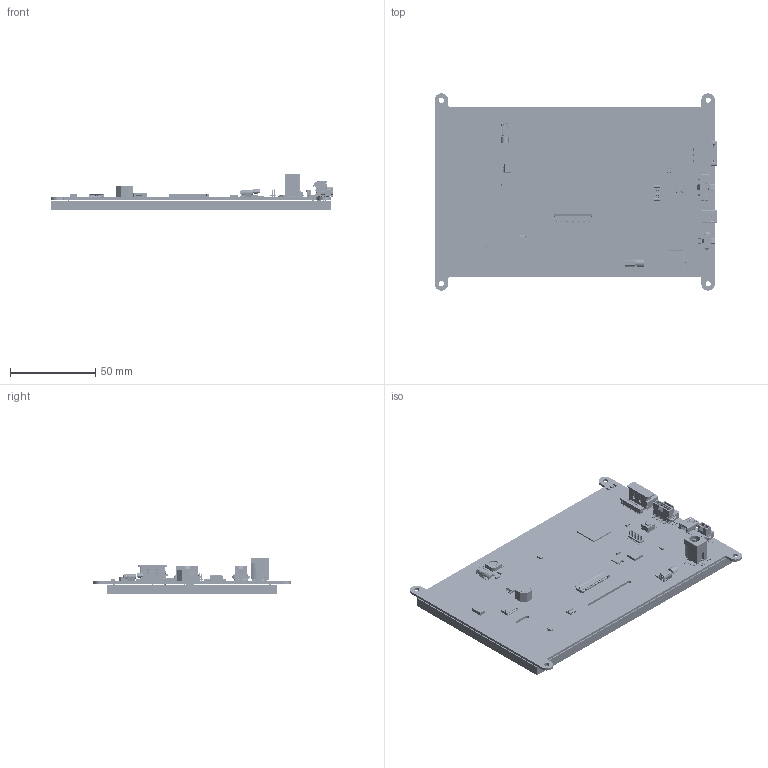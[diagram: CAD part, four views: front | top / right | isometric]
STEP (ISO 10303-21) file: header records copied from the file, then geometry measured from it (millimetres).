
FILE_DESCRIPTION (( 'STEP AP214' ), '1' );
FILE_NAME ('HTT70A-TPN R3.0.2.STEP', '2021-04-06T19:25:35', ( '' ), ( '' ), 'SwSTEP 2.0', 'SolidWorks 2018', '' );
FILE_SCHEMA (( 'AUTOMOTIVE_DESIGN' ));
Length unit declared in the file: millimetre
Products named in the file (4): HTT70_Vert_R3.0.2; HTT70A-TPN R3.0.2; MOP-TFT800480-70A-TPN; HTT70A Vert Parts R3.0.2
Assembly tree (3 placements, depth 2):
  HTT70A-TPN R3.0.2
    HTT70_Vert_R3.0.2
    HTT70A Vert Parts R3.0.2
    MOP-TFT800480-70A-TPN
Bounding box: 166.38 x 116 x 21.76 mm (x, y, z)
Volume: 117971.5 mm3; surface area: 84644.1 mm2
Topology: 2 solids, 192 shells, 13870 faces, 38586 edges, 24969 vertices
Faces by surface type: plane 9725, cylinder 2654, bspline 1413, cone 38, sphere 30, torus 10
Entity records: 608882 total; most frequent: CARTESIAN_POINT 107457, ORIENTED_EDGE 77130, DIRECTION 65012, EDGE_CURVE 38566, LINE 29436, VECTOR 29436, VERTEX_POINT 24961, AXIS2_PLACEMENT_3D 17788
